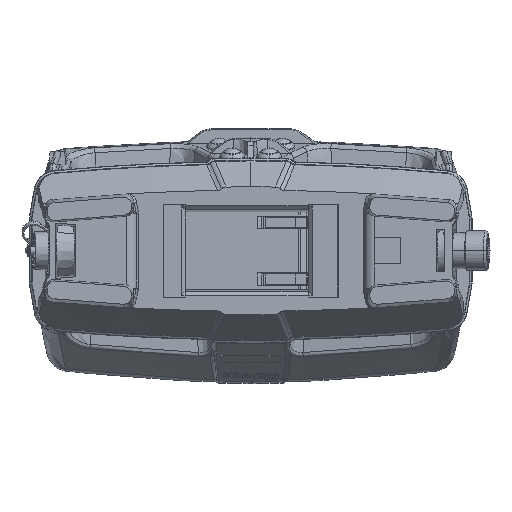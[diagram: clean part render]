
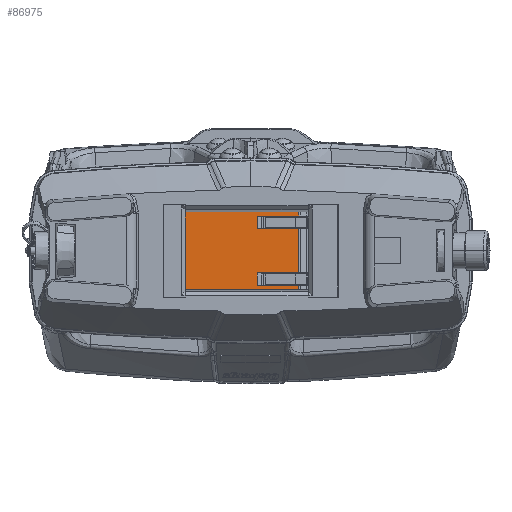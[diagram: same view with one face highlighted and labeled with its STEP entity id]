
A CAD part, front view. The second image highlights one B-rep face of the part: STEP entity #86975.
In plain terms, the highlighted planar face has unit normal (0, -1, 0).
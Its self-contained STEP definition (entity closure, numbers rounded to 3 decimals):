
#418 = DIRECTION ( 'NONE',  ( 0., 0., 1. ) ) ;
#973 = LINE ( 'NONE', #31597, #28869 ) ;
#2895 = VECTOR ( 'NONE', #110749, 1000. ) ;
#5787 = VECTOR ( 'NONE', #13600, 1000. ) ;
#6229 = VERTEX_POINT ( 'NONE', #112273 ) ;
#11301 = CARTESIAN_POINT ( 'NONE',  ( 36.147, -9.5, -16.732 ) ) ;
#12048 = PLANE ( 'NONE',  #89855 ) ;
#12465 = CARTESIAN_POINT ( 'NONE',  ( 34.764, -9.5, -16.732 ) ) ;
#12946 = CARTESIAN_POINT ( 'NONE',  ( -53.75, -9.5, 26.268 ) ) ;
#13600 = DIRECTION ( 'NONE',  ( 1., 0., 0. ) ) ;
#16790 = VECTOR ( 'NONE', #162548, 1000. ) ;
#17876 = VECTOR ( 'NONE', #24889, 1000. ) ;
#20798 = DIRECTION ( 'NONE',  ( 0., 0., 1. ) ) ;
#23082 = EDGE_CURVE ( 'NONE', #92977, #121432, #86747, .T. ) ;
#24889 = DIRECTION ( 'NONE',  ( 1., 0., 0. ) ) ;
#26417 = CARTESIAN_POINT ( 'NONE',  ( -53.75, -9.5, -30.75 ) ) ;
#27438 = CARTESIAN_POINT ( 'NONE',  ( 36.147, -9.5, 29.518 ) ) ;
#27518 = VERTEX_POINT ( 'NONE', #129951 ) ;
#28565 = LINE ( 'NONE', #125143, #2895 ) ;
#28869 = VECTOR ( 'NONE', #179348, 1000. ) ;
#31597 = CARTESIAN_POINT ( 'NONE',  ( 36.147, -9.5, 16.732 ) ) ;
#35803 = CARTESIAN_POINT ( 'NONE',  ( 36.147, -9.5, 29.518 ) ) ;
#37577 = VERTEX_POINT ( 'NONE', #88631 ) ;
#37847 = VECTOR ( 'NONE', #127686, 1000. ) ;
#40323 = EDGE_CURVE ( 'NONE', #6229, #114682, #105636, .T. ) ;
#41232 = LINE ( 'NONE', #172855, #134827 ) ;
#42686 = CARTESIAN_POINT ( 'NONE',  ( 4.886, -9.5, 16.732 ) ) ;
#44519 = CARTESIAN_POINT ( 'NONE',  ( 36.147, -9.5, 16.732 ) ) ;
#47858 = ORIENTED_EDGE ( 'NONE', *, *, #52182, .F. ) ;
#49263 = ORIENTED_EDGE ( 'NONE', *, *, #122202, .T. ) ;
#50818 = EDGE_CURVE ( 'NONE', #27518, #156111, #52942, .T. ) ;
#52182 = EDGE_CURVE ( 'NONE', #134212, #176775, #176854, .T. ) ;
#52942 = LINE ( 'NONE', #12465, #17876 ) ;
#53658 = CARTESIAN_POINT ( 'NONE',  ( 36.147, -9.5, -29.518 ) ) ;
#53962 = ORIENTED_EDGE ( 'NONE', *, *, #145145, .T. ) ;
#55711 = ORIENTED_EDGE ( 'NONE', *, *, #23082, .T. ) ;
#56170 = ORIENTED_EDGE ( 'NONE', *, *, #100617, .T. ) ;
#58427 = ORIENTED_EDGE ( 'NONE', *, *, #77660, .T. ) ;
#59057 = CARTESIAN_POINT ( 'NONE',  ( 4.886, -9.5, -26.268 ) ) ;
#59829 = CARTESIAN_POINT ( 'NONE',  ( 36.147, -9.5, -26.268 ) ) ;
#73137 = ORIENTED_EDGE ( 'NONE', *, *, #139315, .T. ) ;
#77660 = EDGE_CURVE ( 'NONE', #121432, #110902, #187927, .T. ) ;
#79071 = CARTESIAN_POINT ( 'NONE',  ( -53.75, -9.5, 16.732 ) ) ;
#83765 = ORIENTED_EDGE ( 'NONE', *, *, #97244, .F. ) ;
#84497 = VECTOR ( 'NONE', #20798, 1000. ) ;
#86331 = LINE ( 'NONE', #94537, #130869 ) ;
#86454 = DIRECTION ( 'NONE',  ( 0., 0., -1. ) ) ;
#86747 = LINE ( 'NONE', #35803, #84497 ) ;
#86975 = ADVANCED_FACE ( 'NONE', ( #179391 ), #12048, .T. ) ;
#88013 = ORIENTED_EDGE ( 'NONE', *, *, #105337, .T. ) ;
#88631 = CARTESIAN_POINT ( 'NONE',  ( 4.886, -9.5, 26.268 ) ) ;
#89855 = AXIS2_PLACEMENT_3D ( 'NONE', #26417, #115996, #86454 ) ;
#92977 = VERTEX_POINT ( 'NONE', #167980 ) ;
#94158 = ORIENTED_EDGE ( 'NONE', *, *, #50818, .T. ) ;
#94537 = CARTESIAN_POINT ( 'NONE',  ( 4.886, -9.5, -30.75 ) ) ;
#97244 = EDGE_CURVE ( 'NONE', #173673, #142396, #41232, .T. ) ;
#100617 = EDGE_CURVE ( 'NONE', #37577, #92977, #176692, .T. ) ;
#102337 = CARTESIAN_POINT ( 'NONE',  ( -53.75, -9.5, -29.518 ) ) ;
#103545 = DIRECTION ( 'NONE',  ( -1., 0., 0. ) ) ;
#105337 = EDGE_CURVE ( 'NONE', #173673, #27518, #86331, .T. ) ;
#105636 = LINE ( 'NONE', #102337, #16790 ) ;
#108181 = VECTOR ( 'NONE', #103545, 1000. ) ;
#109445 = ORIENTED_EDGE ( 'NONE', *, *, #166337, .T. ) ;
#110749 = DIRECTION ( 'NONE',  ( 0., 0., 1. ) ) ;
#110902 = VERTEX_POINT ( 'NONE', #163136 ) ;
#112273 = CARTESIAN_POINT ( 'NONE',  ( -52.518, -9.5, -29.518 ) ) ;
#112622 = VECTOR ( 'NONE', #418, 1000. ) ;
#114682 = VERTEX_POINT ( 'NONE', #53658 ) ;
#115996 = DIRECTION ( 'NONE',  ( 0., -1., 0. ) ) ;
#121432 = VERTEX_POINT ( 'NONE', #27438 ) ;
#122202 = EDGE_CURVE ( 'NONE', #114682, #142396, #126877, .T. ) ;
#125143 = CARTESIAN_POINT ( 'NONE',  ( 4.886, -9.5, 26.268 ) ) ;
#126807 = LINE ( 'NONE', #142057, #37847 ) ;
#126877 = LINE ( 'NONE', #59829, #112622 ) ;
#127686 = DIRECTION ( 'NONE',  ( 0., 0., -1. ) ) ;
#129951 = CARTESIAN_POINT ( 'NONE',  ( 4.886, -9.5, -16.732 ) ) ;
#130869 = VECTOR ( 'NONE', #139733, 1000. ) ;
#134212 = VERTEX_POINT ( 'NONE', #42686 ) ;
#134827 = VECTOR ( 'NONE', #189129, 1000. ) ;
#135749 = ORIENTED_EDGE ( 'NONE', *, *, #40323, .T. ) ;
#138925 = CARTESIAN_POINT ( 'NONE',  ( 36.147, -9.5, -26.268 ) ) ;
#139315 = EDGE_CURVE ( 'NONE', #156111, #176775, #973, .T. ) ;
#139733 = DIRECTION ( 'NONE',  ( 0., 0., 1. ) ) ;
#142057 = CARTESIAN_POINT ( 'NONE',  ( -52.518, -9.5, -30.75 ) ) ;
#142396 = VERTEX_POINT ( 'NONE', #138925 ) ;
#145145 = EDGE_CURVE ( 'NONE', #110902, #6229, #126807, .T. ) ;
#153008 = DIRECTION ( 'NONE',  ( 1., 0., 0. ) ) ;
#153048 = EDGE_LOOP ( 'NONE', ( #83765, #88013, #94158, #73137, #47858, #109445, #56170, #55711, #58427, #53962, #135749, #49263 ) ) ;
#156111 = VERTEX_POINT ( 'NONE', #11301 ) ;
#162548 = DIRECTION ( 'NONE',  ( 1., 0., 0. ) ) ;
#163136 = CARTESIAN_POINT ( 'NONE',  ( -52.518, -9.5, 29.518 ) ) ;
#166337 = EDGE_CURVE ( 'NONE', #134212, #37577, #28565, .T. ) ;
#167980 = CARTESIAN_POINT ( 'NONE',  ( 36.147, -9.5, 26.268 ) ) ;
#172855 = CARTESIAN_POINT ( 'NONE',  ( 34.764, -9.5, -26.268 ) ) ;
#173673 = VERTEX_POINT ( 'NONE', #59057 ) ;
#176692 = LINE ( 'NONE', #12946, #5787 ) ;
#176775 = VERTEX_POINT ( 'NONE', #44519 ) ;
#176854 = LINE ( 'NONE', #79071, #183490 ) ;
#178098 = CARTESIAN_POINT ( 'NONE',  ( -53.75, -9.5, 29.518 ) ) ;
#179348 = DIRECTION ( 'NONE',  ( 0., 0., 1. ) ) ;
#179391 = FACE_OUTER_BOUND ( 'NONE', #153048, .T. ) ;
#183490 = VECTOR ( 'NONE', #153008, 1000. ) ;
#187927 = LINE ( 'NONE', #178098, #108181 ) ;
#189129 = DIRECTION ( 'NONE',  ( 1., 0., 0. ) ) ;
